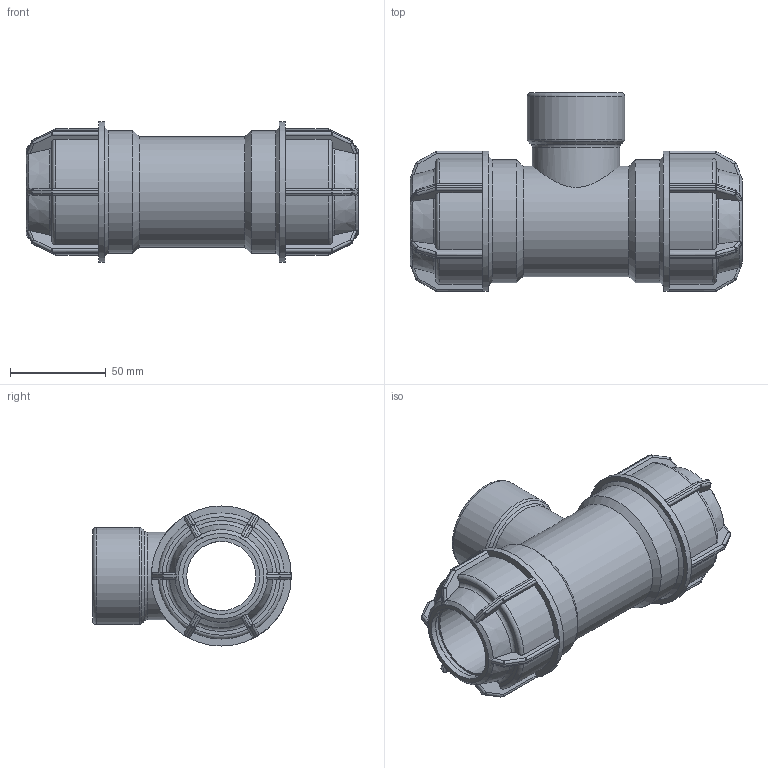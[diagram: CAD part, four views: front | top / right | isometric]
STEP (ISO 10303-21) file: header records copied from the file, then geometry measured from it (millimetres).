
FILE_DESCRIPTION(/* description */ ('PLASSON L.14 TEE FEMALE ADAPTOR (SILVER) 40 x 1.1/4" x 40'),/* implementation_level */ '2;1');
FILE_NAME(/* name */ 'C:\Dropbox\KIMPROJECTS-Inventor\99-16-3568-Processing\Silver Fittings\141400\141400040013.ipt.stp',/* time_stamp */ '2018-04-16T11:15:54+03:00',/* author */ ('KIM'),/* organization */ (''),/* preprocessor_version */ 'ST-DEVELOPER v15.6',/* originating_system */ 'Autodesk Inventor 2015',/* authorisation */ '');
FILE_SCHEMA (('AUTOMOTIVE_DESIGN { 1 0 10303 214 3 1 1 }'));
Length unit declared in the file: millimetre
Products named in the file (1): 141400040013
Bounding box: 173 x 103.5 x 73 mm (x, y, z)
Volume: 324571 mm3; surface area: 75914.4 mm2
Topology: 1 solids, 1 shells, 413 faces, 980 edges, 563 vertices
Faces by surface type: plane 193, cylinder 122, sphere 48, torus 31, cone 19
Full cylindrical faces by diameter (mm): 36 x2, 38.952 x1, 40 x4, 45.574 x1, 50.638 x1, 57.6 x1, 64 x2, 73 x2
Entity records: 11976 total; most frequent: CARTESIAN_POINT 3070, DIRECTION 1876, ORIENTED_EDGE 1824, EDGE_CURVE 912, AXIS2_PLACEMENT_3D 758, VERTEX_POINT 540, EDGE_LOOP 450, FACE_OUTER_BOUND 410
